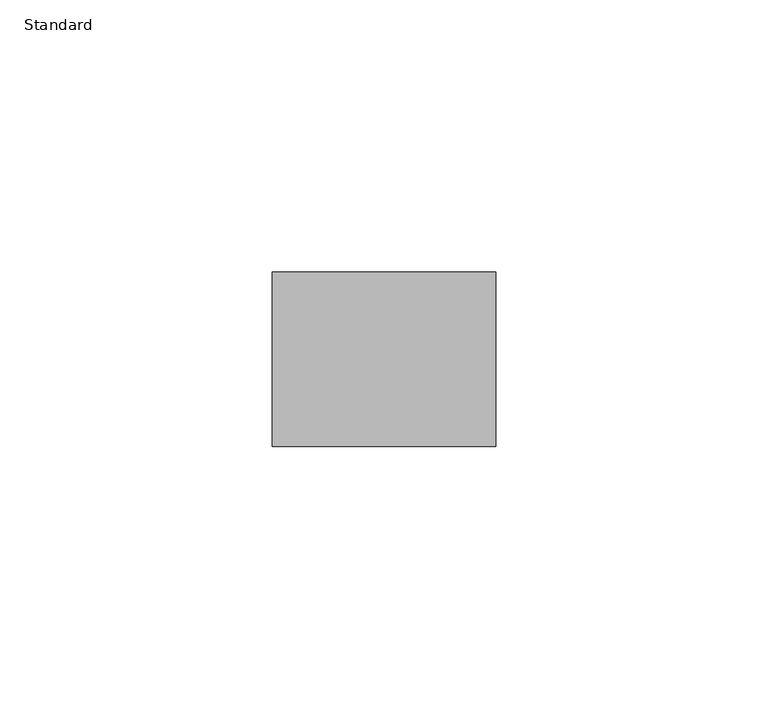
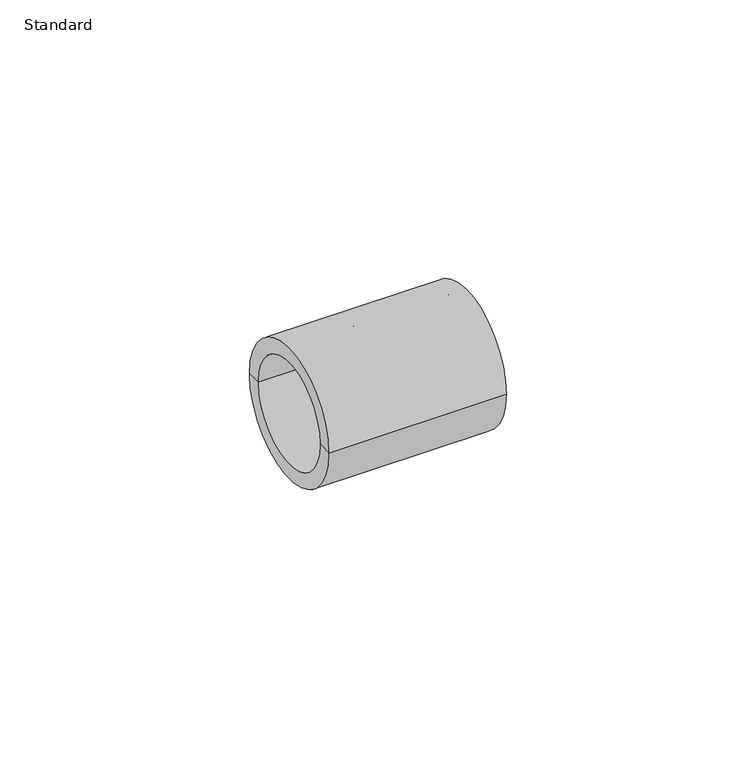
"""IFC4 building model written with IfcOpenShell, lengths in millimetres: pipe fitting geometry, Durapipe_PipeFitting_PVC_Socket : Standard."""

from ifc_helpers import new_model, si_unit, frame, origin, place, context, project, spatial, polyline, circle_curve, source, transform, mapped, element, save
from ifc_brep_helpers import plane_surface, cylinder_surface, revolved_surface, advanced_brep


def standard_49e3cc04(model_context):
    return source(origin(), model_context, "Body", "AdvancedBrep", [
        advanced_brep(
        [(-20.5, -16.0, 0.0), (-20.5, 16.0, 0.0), (20.5, 16.0, 0.0), (20.5, -16.0, 0.0), (-20.5, -12.5, 0.0), (-20.5, 12.5, 0.0), (1.5, -9.5, 0.0), (1.5, 9.5, 0.0), (-1.5, 9.5, 0.0), (-1.5, -9.5, 0.0), (20.5, 12.5, 0.0), (20.5, -12.5, 0.0), (-1.5, -12.5, 0.0), (-1.5, 12.5, 0.0), (1.5, -12.5, 0.0), (1.5, 12.5, 0.0)],
        [
            (0, 1, circle_curve(frame((-20.5, 0.0, 0.0), z_axis=(1.0, 0.0, 0.0), x_axis=(0.0, 1.0, 0.0)), 16.0)),
            (1, 2),
            (2, 3, circle_curve(frame((20.5, 0.0, 0.0), z_axis=(-1.0, 0.0, 0.0), x_axis=(0.0, 1.0, 0.0)), 16.0)),
            (3, 0),
            (1, 0, circle_curve(frame((-20.5, 0.0, 0.0), z_axis=(1.0, 0.0, 0.0), x_axis=(0.0, 1.0, 0.0)), 16.0)),
            (3, 2, circle_curve(frame((20.5, 0.0, 0.0), z_axis=(-1.0, 0.0, 0.0), x_axis=(0.0, 1.0, 0.0)), 16.0)),
            (4, 5, circle_curve(frame((-20.5, 0.0, 0.0), z_axis=(1.0, 0.0, 0.0), x_axis=(0.0, 1.0, 0.0)), 12.5)),
            (5, 1),
            (0, 4),
            (5, 4, circle_curve(frame((-20.5, 0.0, 0.0), z_axis=(1.0, 0.0, 0.0), x_axis=(0.0, 1.0, 0.0)), 12.5)),
            (6, 7, circle_curve(frame((1.5, 0.0, 0.0), z_axis=(1.0, 0.0, 0.0), x_axis=(0.0, 1.0, 0.0)), 9.5)),
            (7, 8),
            (8, 9, circle_curve(frame((-1.5, 0.0, 0.0), z_axis=(-1.0, 0.0, 0.0), x_axis=(0.0, 1.0, 0.0)), 9.5)),
            (9, 6),
            (7, 6, circle_curve(frame((1.5, 0.0, 0.0), z_axis=(1.0, 0.0, 0.0), x_axis=(0.0, 1.0, 0.0)), 9.5)),
            (9, 8, circle_curve(frame((-1.5, 0.0, 0.0), z_axis=(-1.0, 0.0, 0.0), x_axis=(0.0, 1.0, 0.0)), 9.5)),
            (2, 10),
            (10, 11, circle_curve(frame((20.5, 0.0, 0.0), z_axis=(-1.0, 0.0, 0.0), x_axis=(0.0, 1.0, 0.0)), 12.5)),
            (11, 3),
            (11, 10, circle_curve(frame((20.5, 0.0, 0.0), z_axis=(-1.0, 0.0, 0.0), x_axis=(0.0, 1.0, 0.0)), 12.5)),
            (12, 13, circle_curve(frame((-1.5, 0.0, 0.0), z_axis=(1.0, 0.0, 0.0), x_axis=(0.0, 1.0, 0.0)), 12.5)),
            (13, 5),
            (4, 12),
            (13, 12, circle_curve(frame((-1.5, 0.0, 0.0), z_axis=(1.0, 0.0, 0.0), x_axis=(0.0, 1.0, 0.0)), 12.5)),
            (8, 13),
            (12, 9),
            (14, 15, circle_curve(frame((1.5, 0.0, 0.0), z_axis=(1.0, 0.0, 0.0), x_axis=(0.0, 1.0, 0.0)), 12.5)),
            (15, 7),
            (6, 14),
            (15, 14, circle_curve(frame((1.5, 0.0, 0.0), z_axis=(1.0, 0.0, 0.0), x_axis=(0.0, 1.0, 0.0)), 12.5)),
            (10, 15),
            (14, 11),
        ],
        [
            cylinder_surface(frame((-20.5, 0.0, 0.0), z_axis=(-1.0, 0.0, 0.0), x_axis=(0.0, 1.0, 0.0)), 16.0),
            plane_surface(frame((-20.5, 0.0, 0.0), z_axis=(-1.0, 0.0, 0.0), x_axis=(0.0, 1.0, 0.0))),
            revolved_surface(polyline([(-1.5, 9.5, 0.0), (1.5, 9.5, 0.0)]), (-20.5, 0.0, 0.0), (-1.0, 0.0, 0.0)),
            plane_surface(frame((20.5, 0.0, 0.0), z_axis=(1.0, 0.0, 0.0), x_axis=(0.0, 1.0, 0.0))),
            revolved_surface(polyline([(-20.5, 12.5, 0.0), (-1.5, 12.5, 0.0)]), (-20.5, 0.0, 0.0), (-1.0, 0.0, 0.0)),
            plane_surface(frame((-1.5, 0.0, 0.0), z_axis=(-1.0, 0.0, 0.0), x_axis=(0.0, 1.0, 0.0))),
            plane_surface(frame((1.5, 0.0, 0.0), z_axis=(1.0, 0.0, 0.0), x_axis=(0.0, 1.0, 0.0))),
            revolved_surface(polyline([(1.5, 12.5, 0.0), (20.5, 12.5, 0.0)]), (-20.5, 0.0, 0.0), (-1.0, 0.0, 0.0)),
        ],
        [
            (0, [[1, 2, 3, 4]]),
            (0, [[5, -4, 6, -2]]),
            (1, [[7, 8, -1, 9]]),
            (1, [[10, -9, -5, -8]]),
            (2, [[11, 12, 13, 14]]),
            (2, [[15, -14, 16, -12]]),
            (3, [[-3, 17, 18, 19]]),
            (3, [[-6, -19, 20, -17]]),
            (4, [[21, 22, -7, 23]]),
            (4, [[24, -23, -10, -22]]),
            (5, [[-13, 25, -21, 26]]),
            (5, [[-16, -26, -24, -25]]),
            (6, [[27, 28, -11, 29]]),
            (6, [[30, -29, -15, -28]]),
            (7, [[-18, 31, -27, 32]]),
            (7, [[-20, -32, -30, -31]]),
        ],
    ),
    ])


if __name__ == "__main__":
    model = new_model("IFC4")
    model_context = context("Model", 3, world=origin())
    ifc_project = project(units=[si_unit("LENGTHUNIT", "METRE", prefix="MILLI")], contexts=[model_context])
    site = spatial("IfcSite", under=ifc_project)
    building = spatial("IfcBuilding", under=site)
    placement = place(None, origin())
    standard_shape = standard_49e3cc04(model_context)
    element("IfcPipeFitting", 1, ObjectType="Durapipe_PipeFitting_PVC_Socket : Standard", at=placement, inside=building, context=model_context, shape_type="MappedRepresentation", body=[
        mapped(standard_shape, transform((0.0, 0.0, 0.0), x_axis=(1.0, 0.0, 0.0), y_axis=(0.0, 1.0, 0.0), z_axis=(0.0, 0.0, 1.0))),
    ])
    save(model, "model.ifc")
